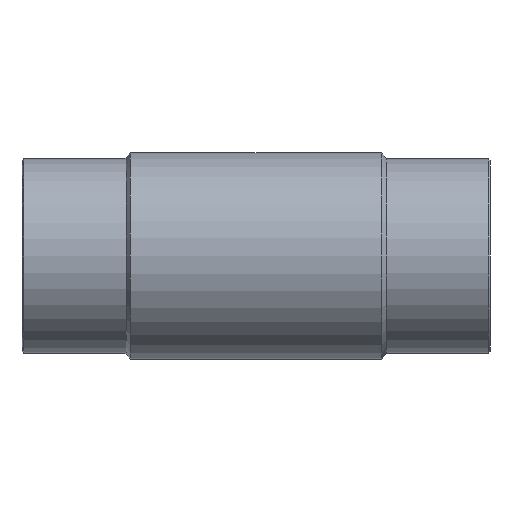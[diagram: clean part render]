
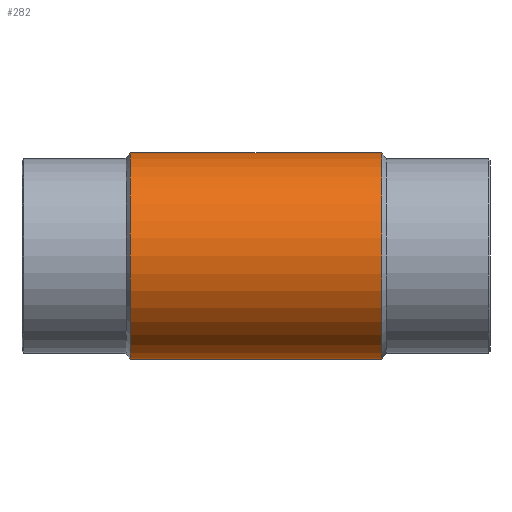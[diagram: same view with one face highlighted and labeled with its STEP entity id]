
A CAD part, front view. The second image highlights one B-rep face of the part: STEP entity #282.
In plain terms, the highlighted cylindrical face has radius 119 mm (diameter 238 mm), a full revolution.
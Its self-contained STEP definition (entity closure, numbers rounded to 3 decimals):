
#27=ELLIPSE('',#335,173.312,119.);
#28=ELLIPSE('',#336,173.312,119.);
#35=CYLINDRICAL_SURFACE('',#334,119.);
#61=ORIENTED_EDGE('',*,*,#110,.T.);
#62=ORIENTED_EDGE('',*,*,#111,.T.);
#63=ORIENTED_EDGE('',*,*,#102,.F.);
#64=ORIENTED_EDGE('',*,*,#109,.T.);
#102=EDGE_CURVE('',#129,#129,#152,.T.);
#109=EDGE_CURVE('',#136,#136,#159,.T.);
#110=EDGE_CURVE('',#137,#138,#27,.F.);
#111=EDGE_CURVE('',#138,#137,#28,.T.);
#129=VERTEX_POINT('',#479);
#136=VERTEX_POINT('',#498);
#137=VERTEX_POINT('',#501);
#138=VERTEX_POINT('',#502);
#152=CIRCLE('',#321,119.);
#159=CIRCLE('',#333,119.);
#187=EDGE_LOOP('',(#61,#62));
#188=EDGE_LOOP('',(#63));
#189=EDGE_LOOP('',(#64));
#235=FACE_BOUND('',#187,.T.);
#236=FACE_BOUND('',#188,.T.);
#237=FACE_BOUND('',#189,.T.);
#282=ADVANCED_FACE('',(#235,#236,#237),#35,.T.);
#321=AXIS2_PLACEMENT_3D('',#478,#383,#384);
#333=AXIS2_PLACEMENT_3D('',#497,#407,#408);
#334=AXIS2_PLACEMENT_3D('',#499,#409,#410);
#335=AXIS2_PLACEMENT_3D('',#500,#411,#412);
#336=AXIS2_PLACEMENT_3D('',#503,#413,#414);
#383=DIRECTION('',(-1.,0.,0.));
#384=DIRECTION('',(0.,0.,1.));
#407=DIRECTION('',(-1.,0.,0.));
#408=DIRECTION('',(0.,0.,1.));
#409=DIRECTION('',(-1.,0.,0.));
#410=DIRECTION('',(0.,0.,1.));
#411=DIRECTION('',(0.687,0.727,0.));
#412=DIRECTION('',(-0.727,0.687,0.));
#413=DIRECTION('',(0.687,-0.727,0.));
#414=DIRECTION('',(-0.727,-0.687,0.));
#478=CARTESIAN_POINT('',(-145.,0.,0.));
#479=CARTESIAN_POINT('',(-145.,0.,119.));
#497=CARTESIAN_POINT('',(145.,0.,0.));
#498=CARTESIAN_POINT('',(145.,0.,119.));
#499=CARTESIAN_POINT('',(-60.,0.,0.));
#500=CARTESIAN_POINT('',(0.,0.,0.));
#501=CARTESIAN_POINT('',(0.,0.,119.));
#502=CARTESIAN_POINT('',(0.,0.,-119.));
#503=CARTESIAN_POINT('',(0.,0.,0.));
